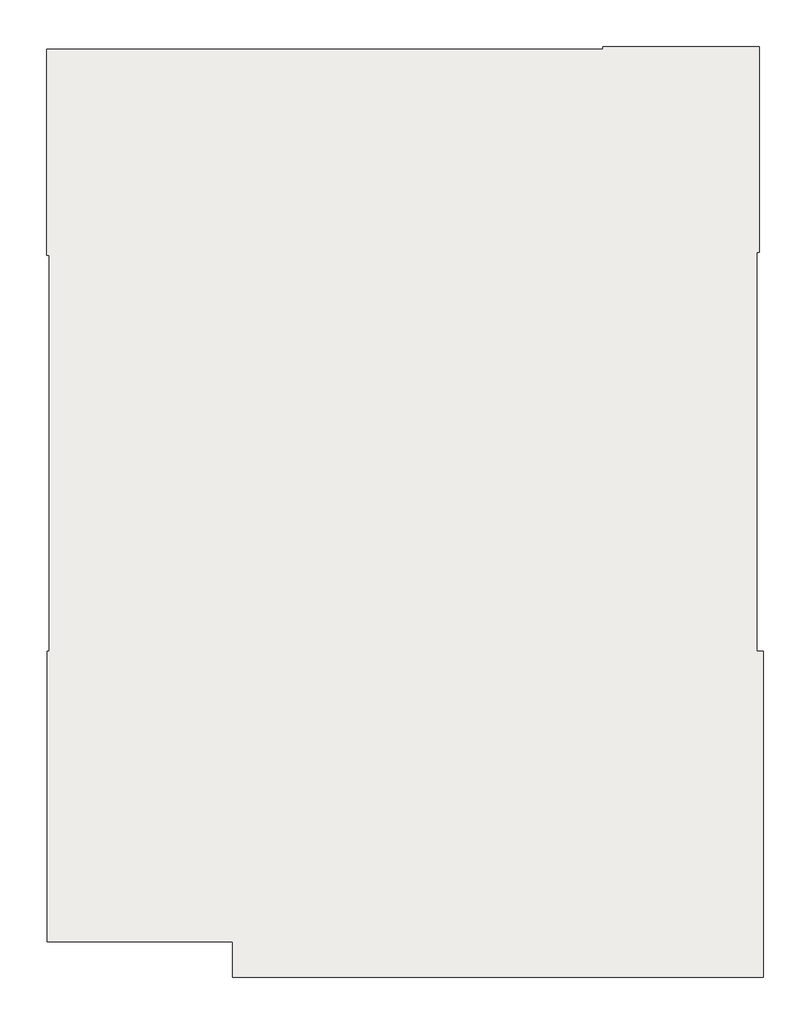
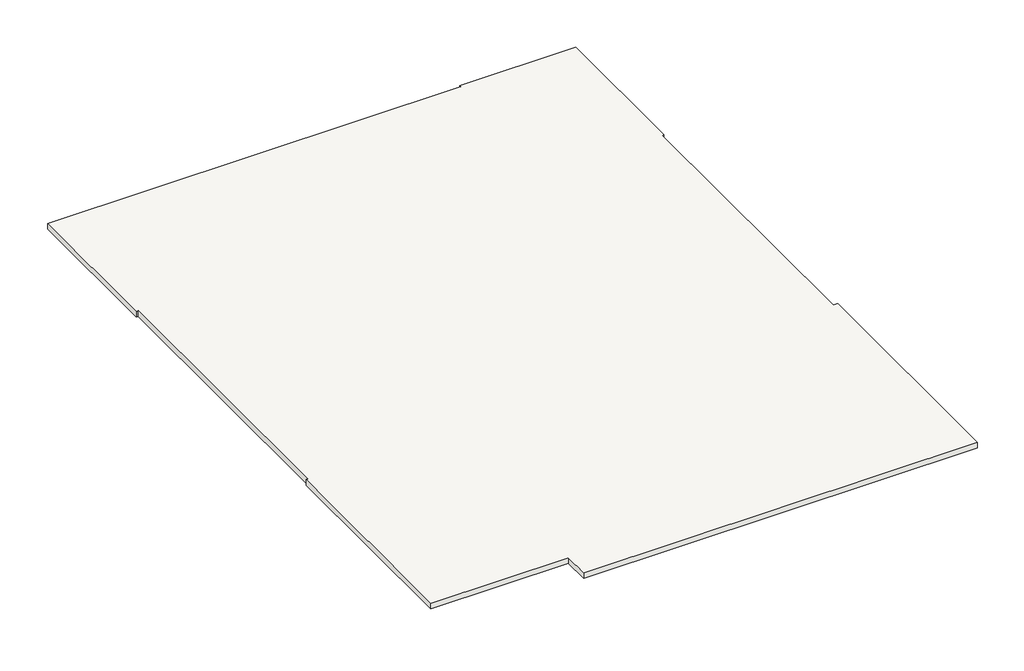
# One storey: 1 roof.
"""IFC4 building model written with IfcOpenShell, lengths in millimetres."""

from ifc_helpers import new_model, si_unit, frame, origin, place, context, project, spatial, polyline, outline, extrude, element, save

model = new_model("IFC4")

# Units and contexts
model_context = context("Model", 3, world=origin())
ifc_project = project(units=[si_unit("LENGTHUNIT", "METRE", prefix="MILLI")], contexts=[model_context])

# Site, building, storey
site = spatial("IfcSite", under=ifc_project)
building = spatial("IfcBuilding", under=site)
storey = spatial("IfcBuildingStorey", under=building, Name="U/S Deck", Elevation=3962.4)

# Roof
placement = place(None, origin())
element("IfcRoof", 1, ObjectType="Wood Rafter 184mm - Asphalt Shingles", at=placement, inside=storey, context=model_context, shape_type="SweptSolid", body=[
    extrude(outline(polyline([(-5422.0370003, 9900.8671333), (6033.3629997, 9900.8671333), (6033.3629997, 9951.6671333), (9259.1629997, 9951.6671333), (9259.1629997, 5722.5671333), (9208.3629997, 5722.5671333), (9208.3629997, -2494.3328667), (9333.0001997, -2494.3328667), (9333.0001997, -9206.2828667), (-1586.6370003, -9206.2828667), (-1586.6370003, -8476.0328667), (-5402.8321003, -8476.0328667), (-5402.8321003, -2494.3328667), (-5365.0419003, -2494.3328667), (-5365.0419003, 5652.7171333), (-5422.0370003, 5652.7171333), (-5422.0370003, 9900.8671333)])), frame((0.0, 0.0, 4064.0), z_axis=(0.0, 0.0, 1.0), x_axis=(1.0, 0.0, 0.0)), (0.0, 0.0, 1.0), 165.1),
])

save(model, "model.ifc")
